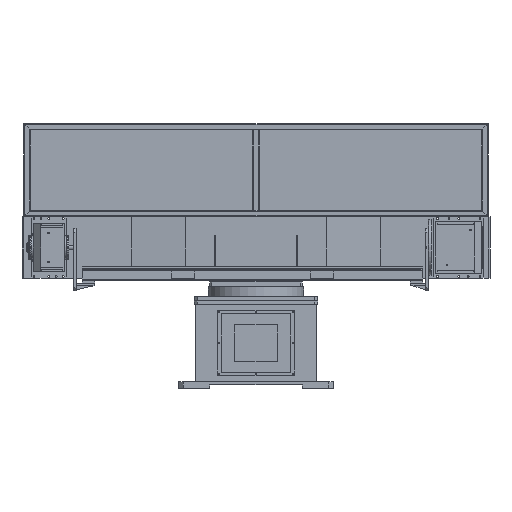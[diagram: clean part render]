
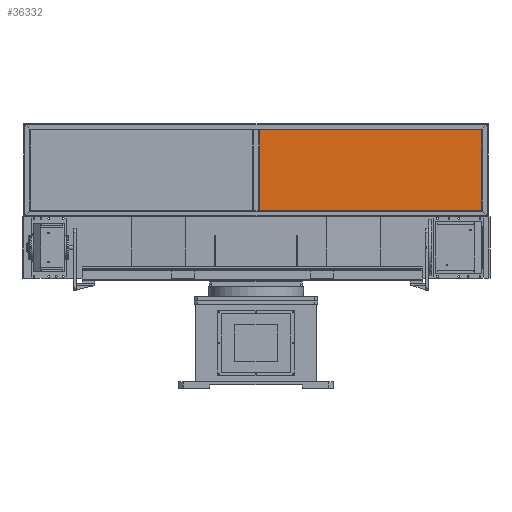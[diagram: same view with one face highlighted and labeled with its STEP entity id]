
A CAD part, left-side view. The second image highlights one B-rep face of the part: STEP entity #36332.
In plain terms, the highlighted planar face has unit normal (-1, 0, 0).
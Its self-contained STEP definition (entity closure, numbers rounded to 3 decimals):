
#2680 = EDGE_CURVE ( 'NONE', #7168, #13104, #17742, .T. ) ;
#3345 = AXIS2_PLACEMENT_3D ( 'NONE', #22917, #29390, #10027 ) ;
#4759 = VECTOR ( 'NONE', #40978, 1000. ) ;
#5789 = LINE ( 'NONE', #41125, #4759 ) ;
#6483 = CARTESIAN_POINT ( 'NONE',  ( -1., -1460., 1150. ) ) ;
#7168 = VERTEX_POINT ( 'NONE', #6483 ) ;
#7555 = EDGE_CURVE ( 'NONE', #40245, #7168, #9502, .T. ) ;
#8562 = DIRECTION ( 'NONE',  ( 0., -1., 0. ) ) ;
#9096 = VECTOR ( 'NONE', #29165, 1000. ) ;
#9502 = LINE ( 'NONE', #34470, #25694 ) ;
#10027 = DIRECTION ( 'NONE',  ( 0., 0., -1. ) ) ;
#10789 = FACE_OUTER_BOUND ( 'NONE', #31956, .T. ) ;
#13104 = VERTEX_POINT ( 'NONE', #18549 ) ;
#14696 = ORIENTED_EDGE ( 'NONE', *, *, #30322, .T. ) ;
#16155 = VECTOR ( 'NONE', #20092, 1000. ) ;
#16218 = CARTESIAN_POINT ( 'NONE',  ( -1., -1460., -1770.001 ) ) ;
#16871 = CARTESIAN_POINT ( 'NONE',  ( -1., -20., 1093.431 ) ) ;
#17546 = VERTEX_POINT ( 'NONE', #34012 ) ;
#17742 = LINE ( 'NONE', #16218, #9096 ) ;
#18549 = CARTESIAN_POINT ( 'NONE',  ( -1., -1460., 1670. ) ) ;
#19277 = CARTESIAN_POINT ( 'NONE',  ( -1., -20., 1150. ) ) ;
#20092 = DIRECTION ( 'NONE',  ( 0., 0., -1. ) ) ;
#22781 = PLANE ( 'NONE',  #3345 ) ;
#22917 = CARTESIAN_POINT ( 'NONE',  ( -1., -1460., -1770.001 ) ) ;
#24061 = ORIENTED_EDGE ( 'NONE', *, *, #2680, .T. ) ;
#25694 = VECTOR ( 'NONE', #8562, 1000. ) ;
#27726 = ORIENTED_EDGE ( 'NONE', *, *, #7555, .T. ) ;
#29165 = DIRECTION ( 'NONE',  ( 0., 0., 1. ) ) ;
#29390 = DIRECTION ( 'NONE',  ( 1., 0., 0. ) ) ;
#30322 = EDGE_CURVE ( 'NONE', #17546, #40245, #33354, .T. ) ;
#30458 = ORIENTED_EDGE ( 'NONE', *, *, #35056, .T. ) ;
#31956 = EDGE_LOOP ( 'NONE', ( #30458, #14696, #27726, #24061 ) ) ;
#33354 = LINE ( 'NONE', #16871, #16155 ) ;
#34012 = CARTESIAN_POINT ( 'NONE',  ( -1., -20., 1670. ) ) ;
#34470 = CARTESIAN_POINT ( 'NONE',  ( -1., -1460., 1150. ) ) ;
#35056 = EDGE_CURVE ( 'NONE', #13104, #17546, #5789, .T. ) ;
#36332 = ADVANCED_FACE ( 'NONE', ( #10789 ), #22781, .F. ) ;
#40245 = VERTEX_POINT ( 'NONE', #19277 ) ;
#40978 = DIRECTION ( 'NONE',  ( 0., 1., 0. ) ) ;
#41125 = CARTESIAN_POINT ( 'NONE',  ( -1., -1460., 1670. ) ) ;
